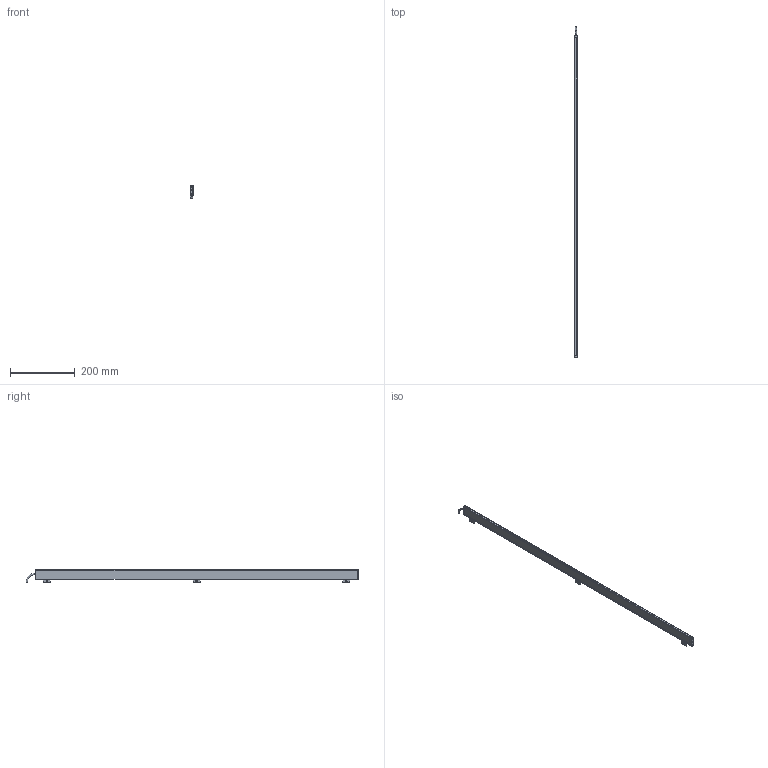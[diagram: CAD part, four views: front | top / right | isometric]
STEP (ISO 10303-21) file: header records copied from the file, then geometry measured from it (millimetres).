
FILE_DESCRIPTION (( 'STEP AP214' ), '1' );
FILE_NAME ('ILG-N-K1-0999mm.STEP', '2017-07-10T13:25:42', ( '' ), ( '' ), 'SwSTEP 2.0', 'SolidWorks 2016', '' );
FILE_SCHEMA (( 'AUTOMOTIVE_DESIGN' ));
Length unit declared in the file: millimetre
Products named in the file (1): ILG-N-K1-0999mm
Bounding box: 10.23 x 1027.25 x 42.41 mm (x, y, z)
Volume: 114589.3 mm3; surface area: 169762.3 mm2
Topology: 12 solids, 12 shells, 532 faces, 1348 edges, 836 vertices
Faces by surface type: plane 296, cylinder 162, cone 64, torus 10
Entity records: 21865 total; most frequent: CARTESIAN_POINT 2865, DIRECTION 2794, ORIENTED_EDGE 2680, EDGE_CURVE 1340, AXIS2_PLACEMENT_3D 973, LINE 848, VECTOR 848, VERTEX_POINT 836
